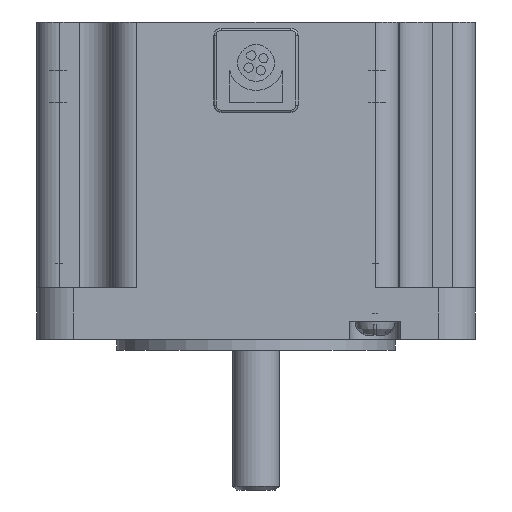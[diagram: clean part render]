
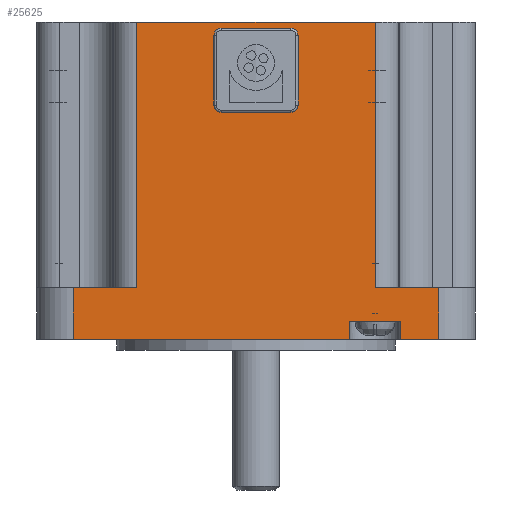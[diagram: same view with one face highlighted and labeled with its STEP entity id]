
A CAD part, front view. The second image highlights one B-rep face of the part: STEP entity #25625.
In plain terms, the highlighted planar face has unit normal (0, -1, 0).
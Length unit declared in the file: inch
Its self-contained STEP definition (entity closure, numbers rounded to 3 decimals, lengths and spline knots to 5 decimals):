
#793=CARTESIAN_POINT('',(0.18701,-1.1811,1.2815));
#794=VERTEX_POINT('',#793);
#801=CARTESIAN_POINT('',(0.22638,-1.1811,1.32087));
#802=VERTEX_POINT('',#801);
#803=CARTESIAN_POINT('',(0.18701,-1.1811,1.32087));
#804=DIRECTION('',(0.0,1.0,0.0));
#805=DIRECTION('',(1.0,0.0,0.0));
#806=AXIS2_PLACEMENT_3D('',#803,#804,#805);
#807=CIRCLE('',#806,0.03937);
#808=EDGE_CURVE('',#802,#794,#807,.T.);
#825=CARTESIAN_POINT('',(-0.18701,-1.1811,1.2815));
#826=VERTEX_POINT('',#825);
#833=CARTESIAN_POINT('',(0.18701,-1.1811,1.2815));
#834=DIRECTION('',(-1.0,0.0,0.0));
#835=VECTOR('',#834,0.37402);
#836=LINE('',#833,#835);
#837=EDGE_CURVE('',#794,#826,#836,.T.);
#849=CARTESIAN_POINT('',(-0.22638,-1.1811,1.32087));
#850=VERTEX_POINT('',#849);
#857=CARTESIAN_POINT('',(-0.18701,-1.1811,1.32087));
#858=DIRECTION('',(0.0,1.0,0.0));
#859=DIRECTION('',(0.0,0.0,-1.0));
#860=AXIS2_PLACEMENT_3D('',#857,#858,#859);
#861=CIRCLE('',#860,0.03937);
#862=EDGE_CURVE('',#826,#850,#861,.T.);
#874=CARTESIAN_POINT('',(-0.22638,-1.1811,1.69488));
#875=VERTEX_POINT('',#874);
#882=CARTESIAN_POINT('',(-0.22638,-1.1811,1.32087));
#883=DIRECTION('',(0.0,0.0,1.0));
#884=VECTOR('',#883,0.37402);
#885=LINE('',#882,#884);
#886=EDGE_CURVE('',#850,#875,#885,.T.);
#1185=CARTESIAN_POINT('',(-0.18701,-1.1811,1.73425));
#1186=VERTEX_POINT('',#1185);
#1193=CARTESIAN_POINT('',(-0.18701,-1.1811,1.69488));
#1194=DIRECTION('',(0.0,1.0,0.0));
#1195=DIRECTION('',(-1.0,0.0,0.0));
#1196=AXIS2_PLACEMENT_3D('',#1193,#1194,#1195);
#1197=CIRCLE('',#1196,0.03937);
#1198=EDGE_CURVE('',#875,#1186,#1197,.T.);
#1210=CARTESIAN_POINT('',(0.18701,-1.1811,1.73425));
#1211=VERTEX_POINT('',#1210);
#1218=CARTESIAN_POINT('',(-0.18701,-1.1811,1.73425));
#1219=DIRECTION('',(1.0,0.0,0.0));
#1220=VECTOR('',#1219,0.37402);
#1221=LINE('',#1218,#1220);
#1222=EDGE_CURVE('',#1186,#1211,#1221,.T.);
#1235=CARTESIAN_POINT('',(0.22638,-1.1811,1.69488));
#1236=VERTEX_POINT('',#1235);
#1237=CARTESIAN_POINT('',(0.22638,-1.1811,1.69488));
#1238=DIRECTION('',(0.0,0.0,-1.0));
#1239=VECTOR('',#1238,0.37402);
#1240=LINE('',#1237,#1239);
#1241=EDGE_CURVE('',#1236,#802,#1240,.T.);
#1259=CARTESIAN_POINT('',(0.18701,-1.1811,1.69488));
#1260=DIRECTION('',(0.0,1.0,0.0));
#1261=DIRECTION('',(0.0,0.0,1.0));
#1262=AXIS2_PLACEMENT_3D('',#1259,#1260,#1261);
#1263=CIRCLE('',#1262,0.03937);
#1264=EDGE_CURVE('',#1211,#1236,#1263,.T.);
#9142=CARTESIAN_POINT('',(0.64173,-1.1811,1.76772));
#9143=VERTEX_POINT('',#9142);
#9144=CARTESIAN_POINT('',(-0.64173,-1.1811,1.76772));
#9145=VERTEX_POINT('',#9144);
#9146=CARTESIAN_POINT('',(0.64173,-1.1811,1.76772));
#9147=DIRECTION('',(-1.0,0.0,0.0));
#9148=VECTOR('',#9147,1.28346);
#9149=LINE('',#9146,#9148);
#9150=EDGE_CURVE('',#9143,#9145,#9149,.T.);
#25179=CARTESIAN_POINT('',(0.77756,-1.1811,0.15748));
#25180=VERTEX_POINT('',#25179);
#25181=CARTESIAN_POINT('',(0.77756,-1.1811,0.05906));
#25182=VERTEX_POINT('',#25181);
#25183=CARTESIAN_POINT('',(0.77756,-1.1811,0.15748));
#25184=DIRECTION('',(0.0,0.0,-1.0));
#25185=VECTOR('',#25184,0.09843);
#25186=LINE('',#25183,#25185);
#25187=EDGE_CURVE('',#25180,#25182,#25186,.T.);
#25257=CARTESIAN_POINT('',(0.50197,-1.1811,0.05906));
#25258=VERTEX_POINT('',#25257);
#25259=CARTESIAN_POINT('',(0.50197,-1.1811,0.15748));
#25260=VERTEX_POINT('',#25259);
#25261=CARTESIAN_POINT('',(0.50197,-1.1811,0.05906));
#25262=DIRECTION('',(0.0,0.0,1.0));
#25263=VECTOR('',#25262,0.09843);
#25264=LINE('',#25261,#25263);
#25265=EDGE_CURVE('',#25258,#25260,#25264,.T.);
#25296=CARTESIAN_POINT('',(0.50197,-1.1811,0.15748));
#25297=DIRECTION('',(1.0,0.0,0.0));
#25298=VECTOR('',#25297,0.27559);
#25299=LINE('',#25296,#25298);
#25300=EDGE_CURVE('',#25260,#25180,#25299,.T.);
#25544=CARTESIAN_POINT('',(0.98425,-1.1811,0.0));
#25545=DIRECTION('',(0.0,-1.0,0.0));
#25546=DIRECTION('',(0.0,0.0,-1.0));
#25547=AXIS2_PLACEMENT_3D('',#25544,#25545,#25546);
#25548=PLANE('',#25547);
#25549=CARTESIAN_POINT('',(0.64173,-1.1811,0.33858));
#25550=VERTEX_POINT('',#25549);
#25551=CARTESIAN_POINT('',(0.64173,-1.1811,1.76772));
#25552=DIRECTION('',(0.0,0.0,-1.0));
#25553=VECTOR('',#25552,1.42913);
#25554=LINE('',#25551,#25553);
#25555=EDGE_CURVE('',#9143,#25550,#25554,.T.);
#25556=ORIENTED_EDGE('',*,*,#25555,.F.);
#25557=ORIENTED_EDGE('',*,*,#9150,.T.);
#25558=CARTESIAN_POINT('',(-0.64173,-1.1811,0.33858));
#25559=VERTEX_POINT('',#25558);
#25560=CARTESIAN_POINT('',(-0.64173,-1.1811,1.76772));
#25561=DIRECTION('',(0.0,0.0,-1.0));
#25562=VECTOR('',#25561,1.42913);
#25563=LINE('',#25560,#25562);
#25564=EDGE_CURVE('',#9145,#25559,#25563,.T.);
#25565=ORIENTED_EDGE('',*,*,#25564,.T.);
#25566=CARTESIAN_POINT('',(-0.98425,-1.1811,0.33858));
#25567=VERTEX_POINT('',#25566);
#25568=CARTESIAN_POINT('',(-0.64173,-1.1811,0.33858));
#25569=DIRECTION('',(-1.0,0.0,0.0));
#25570=VECTOR('',#25569,0.34252);
#25571=LINE('',#25568,#25570);
#25572=EDGE_CURVE('',#25559,#25567,#25571,.T.);
#25573=ORIENTED_EDGE('',*,*,#25572,.T.);
#25574=CARTESIAN_POINT('',(-0.98425,-1.1811,0.05906));
#25575=VERTEX_POINT('',#25574);
#25576=CARTESIAN_POINT('',(-0.98425,-1.1811,0.05906));
#25577=DIRECTION('',(0.0,0.0,1.0));
#25578=VECTOR('',#25577,0.27953);
#25579=LINE('',#25576,#25578);
#25580=EDGE_CURVE('',#25575,#25567,#25579,.T.);
#25581=ORIENTED_EDGE('',*,*,#25580,.F.);
#25582=CARTESIAN_POINT('',(-0.98425,-1.1811,0.05906));
#25583=DIRECTION('',(1.0,0.0,0.0));
#25584=VECTOR('',#25583,1.48622);
#25585=LINE('',#25582,#25584);
#25586=EDGE_CURVE('',#25575,#25258,#25585,.T.);
#25587=ORIENTED_EDGE('',*,*,#25586,.T.);
#25588=ORIENTED_EDGE('',*,*,#25265,.T.);
#25589=ORIENTED_EDGE('',*,*,#25300,.T.);
#25590=ORIENTED_EDGE('',*,*,#25187,.T.);
#25591=CARTESIAN_POINT('',(0.98425,-1.1811,0.05906));
#25592=VERTEX_POINT('',#25591);
#25593=CARTESIAN_POINT('',(0.77756,-1.1811,0.05906));
#25594=DIRECTION('',(1.0,0.0,0.0));
#25595=VECTOR('',#25594,0.20669);
#25596=LINE('',#25593,#25595);
#25597=EDGE_CURVE('',#25182,#25592,#25596,.T.);
#25598=ORIENTED_EDGE('',*,*,#25597,.T.);
#25599=CARTESIAN_POINT('',(0.98425,-1.1811,0.33858));
#25600=VERTEX_POINT('',#25599);
#25601=CARTESIAN_POINT('',(0.98425,-1.1811,0.05906));
#25602=DIRECTION('',(0.0,0.0,1.0));
#25603=VECTOR('',#25602,0.27953);
#25604=LINE('',#25601,#25603);
#25605=EDGE_CURVE('',#25592,#25600,#25604,.T.);
#25606=ORIENTED_EDGE('',*,*,#25605,.T.);
#25607=CARTESIAN_POINT('',(0.98425,-1.1811,0.33858));
#25608=DIRECTION('',(-1.0,0.0,0.0));
#25609=VECTOR('',#25608,0.34252);
#25610=LINE('',#25607,#25609);
#25611=EDGE_CURVE('',#25600,#25550,#25610,.T.);
#25612=ORIENTED_EDGE('',*,*,#25611,.T.);
#25613=EDGE_LOOP('',(#25556,#25557,#25565,#25573,#25581,#25587,#25588,#25589,#25590,#25598,#25606,#25612));
#25614=FACE_OUTER_BOUND('',#25613,.T.);
#25615=ORIENTED_EDGE('',*,*,#808,.T.);
#25616=ORIENTED_EDGE('',*,*,#837,.T.);
#25617=ORIENTED_EDGE('',*,*,#862,.T.);
#25618=ORIENTED_EDGE('',*,*,#886,.T.);
#25619=ORIENTED_EDGE('',*,*,#1198,.T.);
#25620=ORIENTED_EDGE('',*,*,#1222,.T.);
#25621=ORIENTED_EDGE('',*,*,#1264,.T.);
#25622=ORIENTED_EDGE('',*,*,#1241,.T.);
#25623=EDGE_LOOP('',(#25615,#25616,#25617,#25618,#25619,#25620,#25621,#25622));
#25624=FACE_BOUND('',#25623,.T.);
#25625=ADVANCED_FACE('',(#25614,#25624),#25548,.T.);
